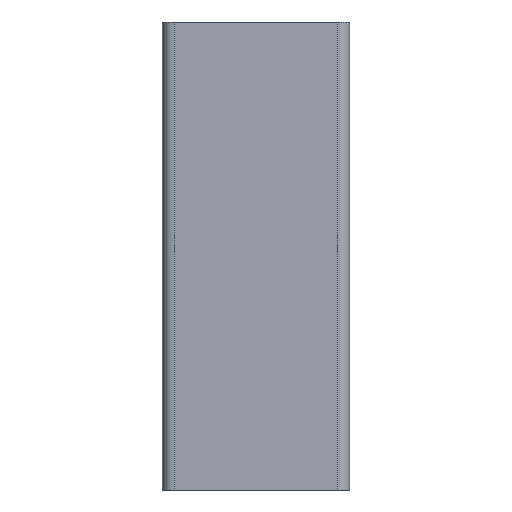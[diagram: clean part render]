
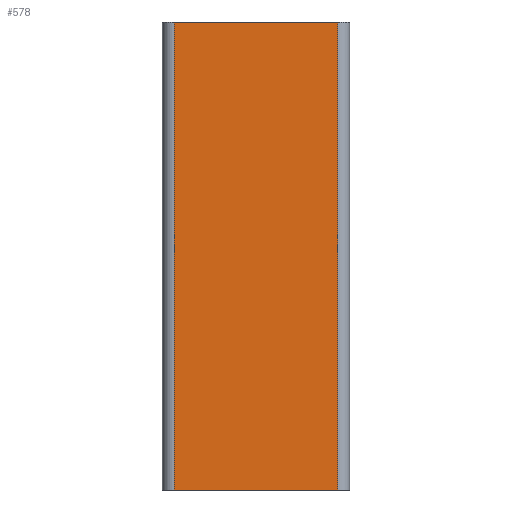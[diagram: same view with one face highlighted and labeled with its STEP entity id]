
A CAD part, front view. The second image highlights one B-rep face of the part: STEP entity #578.
In plain terms, the highlighted planar face has unit normal (0, -1, 0).
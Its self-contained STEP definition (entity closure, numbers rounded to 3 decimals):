
#539=CARTESIAN_POINT('',(714.855,196.915,0.0));
#540=DIRECTION('',(0.0,-1.0,0.0));
#541=DIRECTION('',(0.0,0.0,-1.0));
#542=AXIS2_PLACEMENT_3D('',#539,#540,#541);
#543=PLANE('',#542);
#544=CARTESIAN_POINT('',(714.855,196.915,0.0));
#545=VERTEX_POINT('',#544);
#546=CARTESIAN_POINT('',(679.855,196.915,0.0));
#547=VERTEX_POINT('',#546);
#548=CARTESIAN_POINT('',(714.855,196.915,0.0));
#549=DIRECTION('',(-1.0,0.0,0.0));
#550=VECTOR('',#549,35.0);
#551=LINE('',#548,#550);
#552=EDGE_CURVE('',#545,#547,#551,.T.);
#553=ORIENTED_EDGE('',*,*,#552,.F.);
#554=CARTESIAN_POINT('',(714.855,196.915,100.0));
#555=VERTEX_POINT('',#554);
#556=CARTESIAN_POINT('',(714.855,196.915,0.0));
#557=DIRECTION('',(0.0,0.0,1.0));
#558=VECTOR('',#557,100.0);
#559=LINE('',#556,#558);
#560=EDGE_CURVE('',#545,#555,#559,.T.);
#561=ORIENTED_EDGE('',*,*,#560,.T.);
#562=CARTESIAN_POINT('',(679.855,196.915,100.0));
#563=VERTEX_POINT('',#562);
#564=CARTESIAN_POINT('',(714.855,196.915,100.0));
#565=DIRECTION('',(-1.0,0.0,0.0));
#566=VECTOR('',#565,35.0);
#567=LINE('',#564,#566);
#568=EDGE_CURVE('',#555,#563,#567,.T.);
#569=ORIENTED_EDGE('',*,*,#568,.T.);
#570=CARTESIAN_POINT('',(679.855,196.915,0.0));
#571=DIRECTION('',(0.0,0.0,1.0));
#572=VECTOR('',#571,100.0);
#573=LINE('',#570,#572);
#574=EDGE_CURVE('',#547,#563,#573,.T.);
#575=ORIENTED_EDGE('',*,*,#574,.F.);
#576=EDGE_LOOP('',(#553,#561,#569,#575));
#577=FACE_OUTER_BOUND('',#576,.T.);
#578=ADVANCED_FACE('',(#577),#543,.T.);
